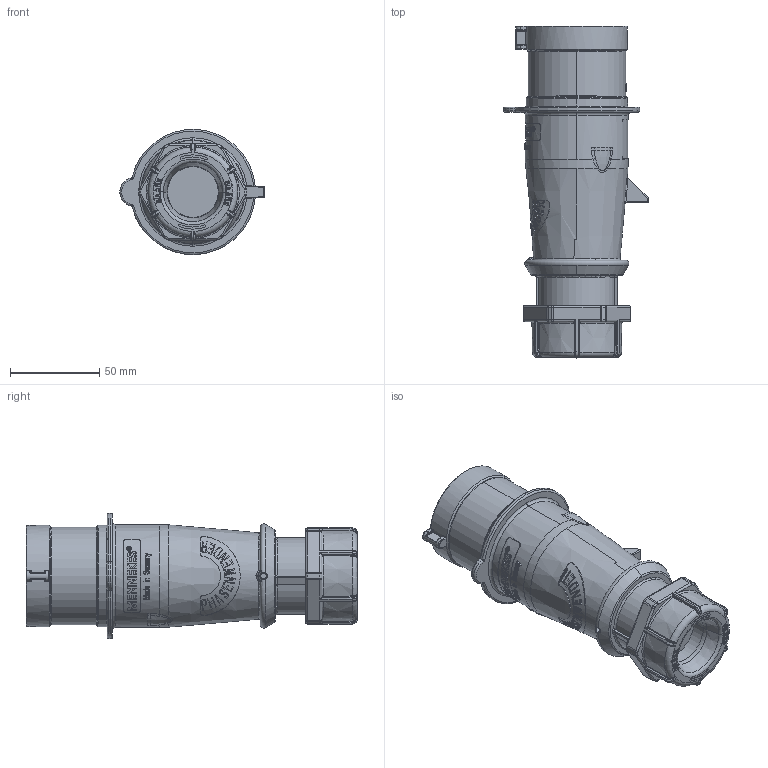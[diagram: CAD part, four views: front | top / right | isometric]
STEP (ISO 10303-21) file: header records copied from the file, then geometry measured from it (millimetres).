
FILE_DESCRIPTION((''),'2;1');
FILE_NAME('1120897_ASM_SW0002','2019-02-13T',('weltickej'),('MENNEKES'),'PRO/ENGINEER BY PARAMETRIC TECHNOLOGY CORPORATION, 2015440','PRO/ENGINEER BY PARAMETRIC TECHNOLOGY CORPORATION, 2015440','');
FILE_SCHEMA(('AUTOMOTIVE_DESIGN { 1 0 10303 214 1 1 1 1 }'));
Products named in the file (1): 1120897_ASM_SW0002
Bounding box: 81 x 186.3 x 70.36 mm (x, y, z)
Volume: 329813.9 mm3; surface area: 56644.8 mm2
Topology: 1 solids, 1 shells, 1766 faces, 4724 edges, 3031 vertices
Faces by surface type: plane 1171, cylinder 202, bspline 166, torus 130, cone 60, extrusion 31, sphere 6
Entity records: 80229 total; most frequent: CARTESIAN_POINT 21271, ORIENTED_EDGE 9448, DIRECTION 7126, EDGE_CURVE 4724, VERTEX_POINT 3031, FILL_AREA_STYLE_COLOUR 2828, FILL_AREA_STYLE 2828, SURFACE_STYLE_FILL_AREA 2828
